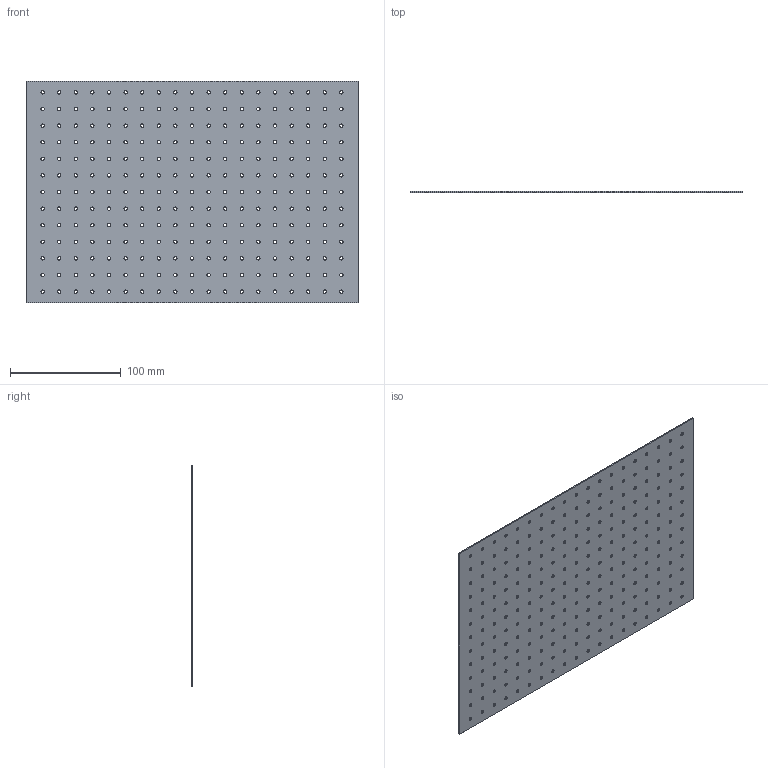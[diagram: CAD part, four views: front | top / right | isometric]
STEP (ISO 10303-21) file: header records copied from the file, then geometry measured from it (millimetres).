
FILE_DESCRIPTION (( 'STEP AP203' ), '1' );
FILE_NAME ('VT00441.STEP', '2016-07-05T05:33:40', ( '' ), ( '' ), 'SwSTEP 2.0', 'SolidWorks 2016', '' );
FILE_SCHEMA (( 'CONFIG_CONTROL_DESIGN' ));
Length unit declared in the file: millimetre
Products named in the file (1): VT00441
Bounding box: 300 x 1 x 200 mm (x, y, z)
Volume: 58254.1 mm3; surface area: 119836 mm2
Topology: 1 solids, 1 shells, 500 faces, 1494 edges, 996 vertices
Faces by surface type: cylinder 494, plane 6
Entity records: 18511 total; most frequent: DIRECTION 3484, CARTESIAN_POINT 2991, ORIENTED_EDGE 2988, EDGE_CURVE 1494, AXIS2_PLACEMENT_3D 1489, VERTEX_POINT 996, EDGE_LOOP 994, CIRCLE 988
